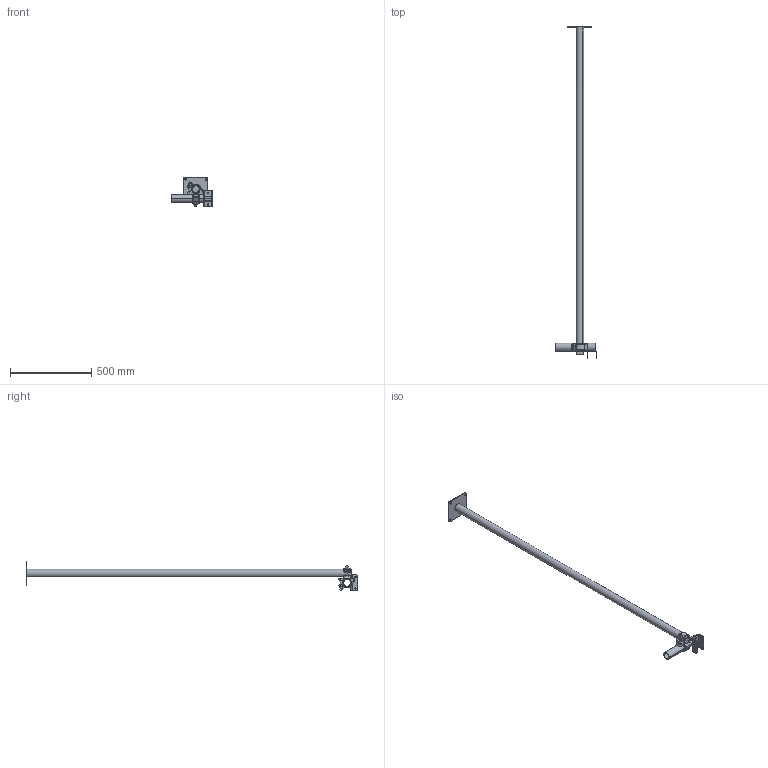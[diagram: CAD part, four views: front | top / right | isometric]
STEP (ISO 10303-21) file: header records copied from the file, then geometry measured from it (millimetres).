
FILE_DESCRIPTION((''),'2;1');
FILE_NAME('114089','2021-10-06T08:05:27',('Tomas Bellgran'),(''),'CREO PARAMETRIC BY PTC INC, 2018260','CREO PARAMETRIC BY PTC INC, 2018260','');
FILE_SCHEMA(('AUTOMOTIVE_DESIGN { 1 0 10303 214 1 1 1 1 }'));
Length unit declared in the file: millimetre
Products named in the file (10): 130-201; 136085; 130-205; APS_LAYHERKOPPLING-546; 136900; 128-264; 128-244; FILLET_WELD_ID_62; 128-240; 114089
Assembly tree (10 placements, depth 3):
  114089
    130-205
      130-201
      136085
    136900
      APS_LAYHERKOPPLING-546  x2
    128-240
      128-264
      128-244
      FILLET_WELD_ID_62
Bounding box: 257 x 2043.15 x 183.5 mm (x, y, z)
Volume: 1396873.5 mm3; surface area: 765934.3 mm2
Topology: 8 solids, 8 shells, 212 faces, 536 edges, 332 vertices
Faces by surface type: cylinder 102, plane 74, torus 20, bspline 8, sphere 8
Entity records: 10167 total; most frequent: CARTESIAN_POINT 3264, DIRECTION 933, ORIENTED_EDGE 722, PROPERTY_DEFINITION 412, REPRESENTATION 406, PROPERTY_DEFINITION_REPRESENTATION 406, AXIS2_PLACEMENT_3D 366, EDGE_CURVE 361
